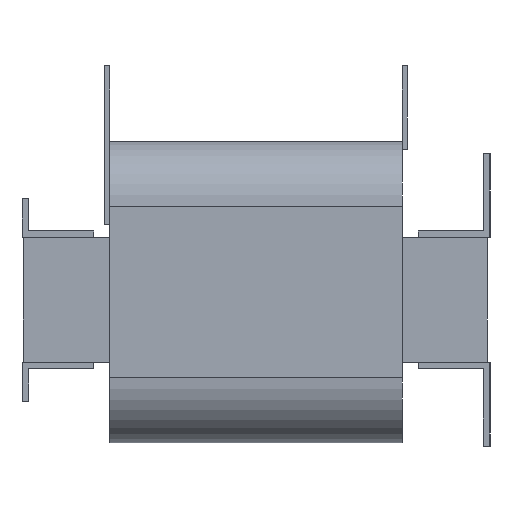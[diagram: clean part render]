
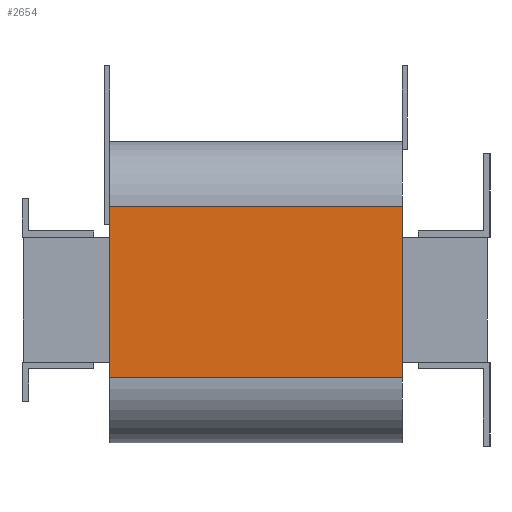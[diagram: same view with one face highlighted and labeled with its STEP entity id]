
A CAD part, left-side view. The second image highlights one B-rep face of the part: STEP entity #2654.
In plain terms, the highlighted planar face has unit normal (-1, 0, 0).
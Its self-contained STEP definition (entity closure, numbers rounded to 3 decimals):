
#114=PLANE('',#2858);
#243=FACE_OUTER_BOUND('',#393,.T.);
#393=EDGE_LOOP('',(#2278,#2279,#2280,#2281));
#670=LINE('',#4169,#996);
#689=LINE('',#4219,#1015);
#690=LINE('',#4222,#1016);
#691=LINE('',#4223,#1017);
#996=VECTOR('',#3404,10.);
#1015=VECTOR('',#3449,10.);
#1016=VECTOR('',#3452,10.);
#1017=VECTOR('',#3453,10.);
#1331=VERTEX_POINT('',#4166);
#1332=VERTEX_POINT('',#4168);
#1350=VERTEX_POINT('',#4217);
#1351=VERTEX_POINT('',#4221);
#1661=EDGE_CURVE('',#1331,#1332,#670,.T.);
#1687=EDGE_CURVE('',#1350,#1331,#689,.T.);
#1688=EDGE_CURVE('',#1350,#1351,#690,.T.);
#1689=EDGE_CURVE('',#1332,#1351,#691,.T.);
#2278=ORIENTED_EDGE('',*,*,#1687,.F.);
#2279=ORIENTED_EDGE('',*,*,#1688,.T.);
#2280=ORIENTED_EDGE('',*,*,#1689,.F.);
#2281=ORIENTED_EDGE('',*,*,#1661,.F.);
#2654=ADVANCED_FACE('',(#243),#114,.T.);
#2858=AXIS2_PLACEMENT_3D('',#4220,#3450,#3451);
#3404=DIRECTION('',(0.,0.,1.));
#3449=DIRECTION('',(0.,1.,0.));
#3450=DIRECTION('center_axis',(-1.,0.,0.));
#3451=DIRECTION('ref_axis',(0.,0.,1.));
#3452=DIRECTION('',(0.,0.,1.));
#3453=DIRECTION('',(0.,-1.,0.));
#4166=CARTESIAN_POINT('',(-302.,292.5,-60.));
#4168=CARTESIAN_POINT('',(-302.,292.5,72.));
#4169=CARTESIAN_POINT('',(-302.,292.5,-110.));
#4217=CARTESIAN_POINT('',(-302.,67.5,-60.));
#4219=CARTESIAN_POINT('',(-302.,67.5,-60.));
#4220=CARTESIAN_POINT('Origin',(-302.,67.5,-110.));
#4221=CARTESIAN_POINT('',(-302.,67.5,72.));
#4222=CARTESIAN_POINT('',(-302.,67.5,-110.));
#4223=CARTESIAN_POINT('',(-302.,67.5,72.));
